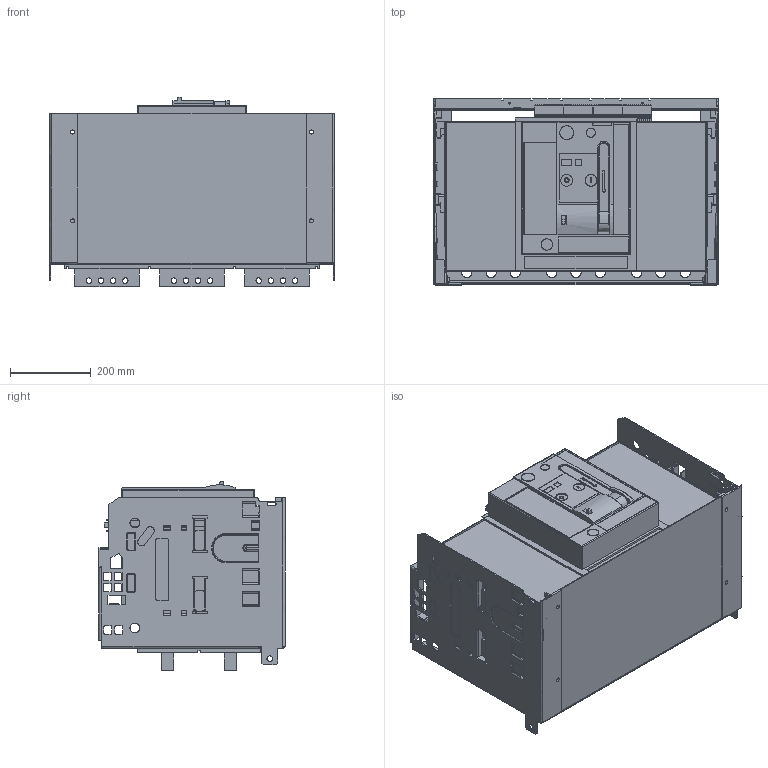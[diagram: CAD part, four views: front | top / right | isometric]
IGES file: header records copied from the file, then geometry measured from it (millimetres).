
Start section: SolidWorks IGES file using analytic representation for surfaces
Global section: file name: U:\14_RD\05_Technical_office\04_Office\Hrdinova\3D modely - IGES\Arion\ARION_WL1350-___36.IGS; native system: SolidWorks 2011; preprocessor: SolidWorks 2011; author: adhrja3; date: 170609.094132; units: millimetre
Bounding box: 704 x 460 x 468.22 mm (x, y, z)
Surface area: 3743631.2 mm2 (no closed solid volume)
Topology: 0 solids, 0 shells, 3338 faces, 31715 edges, 31705 vertices
Faces by surface type: bspline 2601, revolution 737
